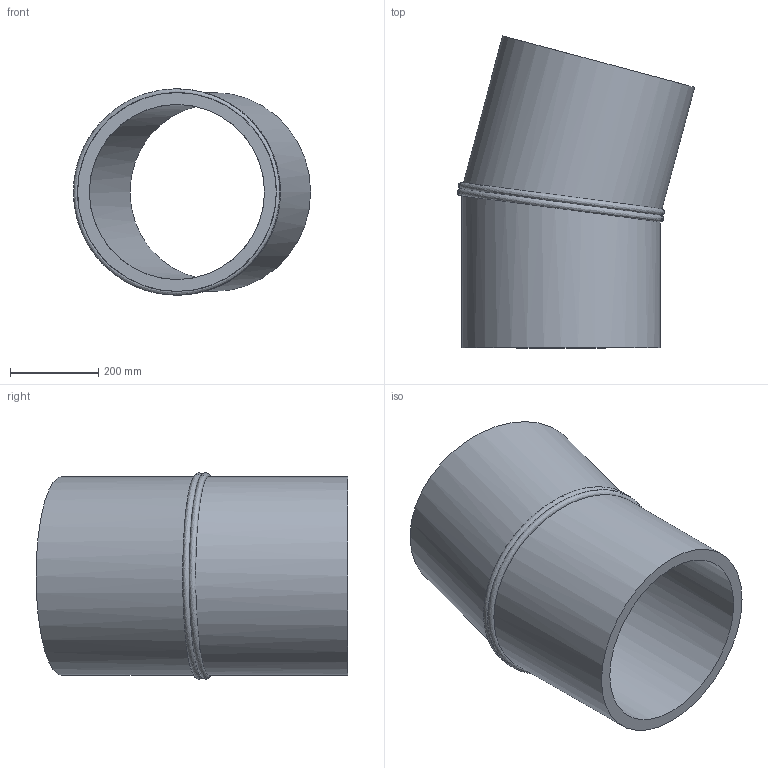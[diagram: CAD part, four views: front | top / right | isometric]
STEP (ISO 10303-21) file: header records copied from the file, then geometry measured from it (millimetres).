
FILE_DESCRIPTION(/* description */ ('Unknown'),/* implementation_level */ '2;1');
FILE_NAME(/* name */ 'Curva 15° a settore DE450 SDR17',/* time_stamp */ '2022-07-22T17:04:33+02:00',/* author */ ('Unknown'),/* organization */ ('Unknown'),/* preprocessor_version */ 'ST-DEVELOPER v18.102',/* originating_system */ 'Solid Edge',/* authorisation */ 'Unknown');
FILE_SCHEMA (('AUTOMOTIVE_DESIGN {1 0 10303 214 3 1 1}'));
Length unit declared in the file: millimetre
Products named in the file (2): Curva 15° a settore DE450 SDR17; Tubo x Gomito 15° DE450 SDR17
Assembly tree (2 placements, depth 2):
  Curva 15° a settore DE450 SDR17
    Tubo x Gomito 15° DE450 SDR17  x2
Bounding box: 537.06 x 706.25 x 466.86 mm (x, y, z)
Volume: 23703815.3 mm3; surface area: 1928140.2 mm2
Topology: 2 solids, 2 shells, 10 faces, 20 edges, 14 vertices
Faces by surface type: cylinder 4, plane 4, bspline 2
Full cylindrical faces by diameter (mm): 396.6 x2, 450 x2
Entity records: 767 total; most frequent: CARTESIAN_POINT 630, DIRECTION 20, ORIENTED_EDGE 10, EDGE_LOOP 10, FACE_BOUND 10, AXIS2_PLACEMENT_3D 10, EDGE_CURVE 5, VERTEX_POINT 5
